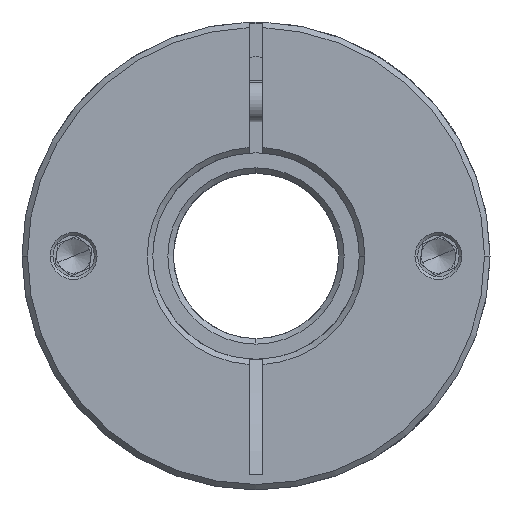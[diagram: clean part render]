
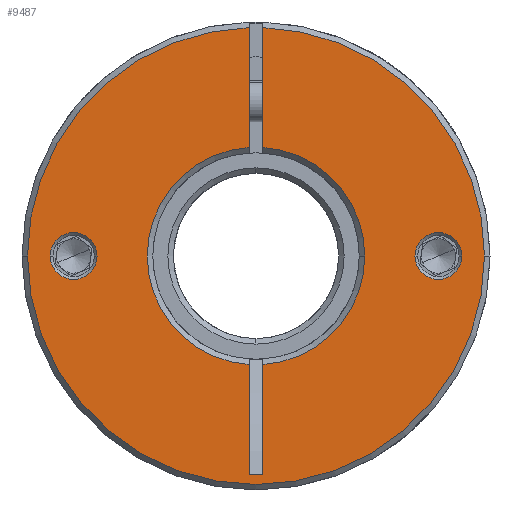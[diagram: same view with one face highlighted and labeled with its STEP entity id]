
A CAD part, front view. The second image highlights one B-rep face of the part: STEP entity #9487.
In plain terms, the highlighted planar face has unit normal (0, -1, 0).
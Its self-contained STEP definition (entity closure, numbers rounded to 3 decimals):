
#29 = EDGE_CURVE ( 'NONE', #5239, #2534, #8631, .T. ) ;
#122 = CARTESIAN_POINT ( 'NONE',  ( -2.735, -47.045, 68. ) ) ;
#135 = ORIENTED_EDGE ( 'NONE', *, *, #233, .T. ) ;
#233 = EDGE_CURVE ( 'NONE', #6963, #1270, #8201, .T. ) ;
#679 = AXIS2_PLACEMENT_3D ( 'NONE', #1423, #8633, #5821 ) ;
#842 = LINE ( 'NONE', #12953, #6326 ) ;
#847 = CARTESIAN_POINT ( 'NONE',  ( -2.735, -47.045, 68. ) ) ;
#937 = AXIS2_PLACEMENT_3D ( 'NONE', #4713, #8910, #5774 ) ;
#1107 = EDGE_CURVE ( 'NONE', #6846, #11658, #8494, .T. ) ;
#1144 = DIRECTION ( 'NONE',  ( 0., -1., 0. ) ) ;
#1270 = VERTEX_POINT ( 'NONE', #1434 ) ;
#1414 = DIRECTION ( 'NONE',  ( 0., 1., 0. ) ) ;
#1423 = CARTESIAN_POINT ( 'NONE',  ( -2.735, -47.045, 68. ) ) ;
#1434 = CARTESIAN_POINT ( 'NONE',  ( -3.735, -47.045, 83.768 ) ) ;
#1494 = CARTESIAN_POINT ( 'NONE',  ( 23.765, -47.045, 68. ) ) ;
#1496 = CARTESIAN_POINT ( 'NONE',  ( -3.735, -47.045, 36.279 ) ) ;
#1751 = CARTESIAN_POINT ( 'NONE',  ( -1.735, -47.045, 36.279 ) ) ;
#1913 = DIRECTION ( 'NONE',  ( 0., -1., 0. ) ) ;
#2199 = AXIS2_PLACEMENT_3D ( 'NONE', #5941, #6035, #7137 ) ;
#2284 = DIRECTION ( 'NONE',  ( 1., 0., 0. ) ) ;
#2534 = VERTEX_POINT ( 'NONE', #12576 ) ;
#2579 = ORIENTED_EDGE ( 'NONE', *, *, #10804, .F. ) ;
#2873 = EDGE_CURVE ( 'NONE', #2534, #12793, #11479, .T. ) ;
#3048 = VECTOR ( 'NONE', #7793, 1000. ) ;
#3285 = EDGE_LOOP ( 'NONE', ( #4196, #9244, #7271, #9202, #8887, #9224, #12603, #3463, #12957, #2579, #135 ) ) ;
#3323 = FACE_OUTER_BOUND ( 'NONE', #3285, .T. ) ;
#3342 = ORIENTED_EDGE ( 'NONE', *, *, #6259, .T. ) ;
#3374 = CARTESIAN_POINT ( 'NONE',  ( -3.735, -47.045, 68. ) ) ;
#3463 = ORIENTED_EDGE ( 'NONE', *, *, #6701, .T. ) ;
#3532 = LINE ( 'NONE', #6753, #3048 ) ;
#3602 = EDGE_CURVE ( 'NONE', #10843, #1270, #13252, .T. ) ;
#3771 = CARTESIAN_POINT ( 'NONE',  ( -3.735, -47.045, 101.185 ) ) ;
#3911 = VERTEX_POINT ( 'NONE', #12993 ) ;
#4104 = CIRCLE ( 'NONE', #9115, 15.8 ) ;
#4133 = DIRECTION ( 'NONE',  ( 1., 0., 0. ) ) ;
#4196 = ORIENTED_EDGE ( 'NONE', *, *, #3602, .F. ) ;
#4419 = EDGE_LOOP ( 'NONE', ( #11753, #3342 ) ) ;
#4603 = AXIS2_PLACEMENT_3D ( 'NONE', #11765, #1414, #6648 ) ;
#4713 = CARTESIAN_POINT ( 'NONE',  ( -2.735, -47.045, 68. ) ) ;
#4766 = VECTOR ( 'NONE', #10526, 1000. ) ;
#4858 = ORIENTED_EDGE ( 'NONE', *, *, #8524, .T. ) ;
#5030 = DIRECTION ( 'NONE',  ( 0., -1., 0. ) ) ;
#5149 = AXIS2_PLACEMENT_3D ( 'NONE', #7321, #1144, #8406 ) ;
#5161 = CARTESIAN_POINT ( 'NONE',  ( -2.735, -47.045, 68. ) ) ;
#5239 = VERTEX_POINT ( 'NONE', #5687 ) ;
#5498 = EDGE_CURVE ( 'NONE', #10843, #5239, #9794, .T. ) ;
#5540 = VERTEX_POINT ( 'NONE', #10408 ) ;
#5599 = AXIS2_PLACEMENT_3D ( 'NONE', #11442, #6394, #2284 ) ;
#5672 = VERTEX_POINT ( 'NONE', #7639 ) ;
#5681 = EDGE_CURVE ( 'NONE', #10936, #3911, #10761, .T. ) ;
#5687 = CARTESIAN_POINT ( 'NONE',  ( -35.935, -47.045, 68. ) ) ;
#5774 = DIRECTION ( 'NONE',  ( 1., 0., 0. ) ) ;
#5803 = DIRECTION ( 'NONE',  ( 0., 1., 0. ) ) ;
#5821 = DIRECTION ( 'NONE',  ( 1., 0., 0. ) ) ;
#5916 = VECTOR ( 'NONE', #9479, 1000. ) ;
#5941 = CARTESIAN_POINT ( 'NONE',  ( -29.235, -47.045, 68. ) ) ;
#6035 = DIRECTION ( 'NONE',  ( 0., 1., 0. ) ) ;
#6057 = DIRECTION ( 'NONE',  ( 1., 0., 0. ) ) ;
#6090 = CARTESIAN_POINT ( 'NONE',  ( 13.065, -47.045, 68. ) ) ;
#6259 = EDGE_CURVE ( 'NONE', #8255, #5540, #10100, .T. ) ;
#6289 = CARTESIAN_POINT ( 'NONE',  ( -32.635, -47.045, 68. ) ) ;
#6326 = VECTOR ( 'NONE', #8785, 1000. ) ;
#6394 = DIRECTION ( 'NONE',  ( 0., 1., 0. ) ) ;
#6648 = DIRECTION ( 'NONE',  ( 1., 0., 0. ) ) ;
#6701 = EDGE_CURVE ( 'NONE', #11658, #10936, #3532, .T. ) ;
#6753 = CARTESIAN_POINT ( 'NONE',  ( -1.735, -47.045, 68. ) ) ;
#6846 = VERTEX_POINT ( 'NONE', #6090 ) ;
#6888 = CARTESIAN_POINT ( 'NONE',  ( -1.735, -47.045, 52.232 ) ) ;
#6963 = VERTEX_POINT ( 'NONE', #12592 ) ;
#7035 = EDGE_CURVE ( 'NONE', #5672, #12624, #9780, .T. ) ;
#7137 = DIRECTION ( 'NONE',  ( 1., 0., 0. ) ) ;
#7271 = ORIENTED_EDGE ( 'NONE', *, *, #29, .T. ) ;
#7303 = DIRECTION ( 'NONE',  ( 0., 1., 0. ) ) ;
#7321 = CARTESIAN_POINT ( 'NONE',  ( -2.735, -47.045, 68. ) ) ;
#7347 = LINE ( 'NONE', #11510, #5916 ) ;
#7639 = CARTESIAN_POINT ( 'NONE',  ( 20.365, -47.045, 68. ) ) ;
#7793 = DIRECTION ( 'NONE',  ( 0., 0., -1. ) ) ;
#8201 = CIRCLE ( 'NONE', #679, 15.8 ) ;
#8255 = VERTEX_POINT ( 'NONE', #6289 ) ;
#8406 = DIRECTION ( 'NONE',  ( 1., 0., 0. ) ) ;
#8494 = CIRCLE ( 'NONE', #8847, 15.8 ) ;
#8524 = EDGE_CURVE ( 'NONE', #12624, #5672, #9096, .T. ) ;
#8546 = CIRCLE ( 'NONE', #4603, 3.4 ) ;
#8631 = CIRCLE ( 'NONE', #10481, 33.2 ) ;
#8633 = DIRECTION ( 'NONE',  ( 0., 1., 0. ) ) ;
#8785 = DIRECTION ( 'NONE',  ( 0., 0., -1. ) ) ;
#8847 = AXIS2_PLACEMENT_3D ( 'NONE', #122, #7303, #4133 ) ;
#8887 = ORIENTED_EDGE ( 'NONE', *, *, #8935, .T. ) ;
#8910 = DIRECTION ( 'NONE',  ( 0., -1., 0. ) ) ;
#8935 = EDGE_CURVE ( 'NONE', #12793, #10164, #7347, .T. ) ;
#9096 = CIRCLE ( 'NONE', #11423, 3.4 ) ;
#9115 = AXIS2_PLACEMENT_3D ( 'NONE', #13220, #12190, #13306 ) ;
#9202 = ORIENTED_EDGE ( 'NONE', *, *, #2873, .T. ) ;
#9224 = ORIENTED_EDGE ( 'NONE', *, *, #9946, .T. ) ;
#9244 = ORIENTED_EDGE ( 'NONE', *, *, #5498, .T. ) ;
#9386 = CARTESIAN_POINT ( 'NONE',  ( -1.735, -47.045, 83.768 ) ) ;
#9479 = DIRECTION ( 'NONE',  ( 0., 0., -1. ) ) ;
#9487 = ADVANCED_FACE ( 'NONE', ( #9724, #11828, #3323 ), #11905, .T. ) ;
#9724 = FACE_BOUND ( 'NONE', #9964, .T. ) ;
#9762 = DIRECTION ( 'NONE',  ( 1., 0., 0. ) ) ;
#9764 = DIRECTION ( 'NONE',  ( -1., 0., 0. ) ) ;
#9780 = CIRCLE ( 'NONE', #5599, 3.4 ) ;
#9794 = CIRCLE ( 'NONE', #5149, 33.2 ) ;
#9805 = CARTESIAN_POINT ( 'NONE',  ( -1.735, -47.045, 101.185 ) ) ;
#9946 = EDGE_CURVE ( 'NONE', #10164, #6846, #4104, .T. ) ;
#9964 = EDGE_LOOP ( 'NONE', ( #4858, #10628 ) ) ;
#10100 = CIRCLE ( 'NONE', #2199, 3.4 ) ;
#10164 = VERTEX_POINT ( 'NONE', #9386 ) ;
#10291 = VECTOR ( 'NONE', #9764, 1000. ) ;
#10408 = CARTESIAN_POINT ( 'NONE',  ( -25.835, -47.045, 68. ) ) ;
#10481 = AXIS2_PLACEMENT_3D ( 'NONE', #5161, #5030, #6057 ) ;
#10526 = DIRECTION ( 'NONE',  ( 0., 0., -1. ) ) ;
#10628 = ORIENTED_EDGE ( 'NONE', *, *, #7035, .T. ) ;
#10761 = LINE ( 'NONE', #1496, #10291 ) ;
#10804 = EDGE_CURVE ( 'NONE', #6963, #3911, #842, .T. ) ;
#10843 = VERTEX_POINT ( 'NONE', #3771 ) ;
#10936 = VERTEX_POINT ( 'NONE', #1751 ) ;
#11223 = DIRECTION ( 'NONE',  ( 1., 0., 0. ) ) ;
#11423 = AXIS2_PLACEMENT_3D ( 'NONE', #1494, #5803, #9762 ) ;
#11442 = CARTESIAN_POINT ( 'NONE',  ( 23.765, -47.045, 68. ) ) ;
#11479 = CIRCLE ( 'NONE', #12593, 33.2 ) ;
#11510 = CARTESIAN_POINT ( 'NONE',  ( -1.735, -47.045, 68. ) ) ;
#11565 = CARTESIAN_POINT ( 'NONE',  ( 27.165, -47.045, 68. ) ) ;
#11658 = VERTEX_POINT ( 'NONE', #6888 ) ;
#11753 = ORIENTED_EDGE ( 'NONE', *, *, #12418, .T. ) ;
#11765 = CARTESIAN_POINT ( 'NONE',  ( -29.235, -47.045, 68. ) ) ;
#11828 = FACE_BOUND ( 'NONE', #4419, .T. ) ;
#11905 = PLANE ( 'NONE',  #937 ) ;
#12190 = DIRECTION ( 'NONE',  ( 0., 1., 0. ) ) ;
#12418 = EDGE_CURVE ( 'NONE', #5540, #8255, #8546, .T. ) ;
#12576 = CARTESIAN_POINT ( 'NONE',  ( 30.465, -47.045, 68. ) ) ;
#12592 = CARTESIAN_POINT ( 'NONE',  ( -3.735, -47.045, 52.232 ) ) ;
#12593 = AXIS2_PLACEMENT_3D ( 'NONE', #847, #1913, #11223 ) ;
#12603 = ORIENTED_EDGE ( 'NONE', *, *, #1107, .T. ) ;
#12624 = VERTEX_POINT ( 'NONE', #11565 ) ;
#12793 = VERTEX_POINT ( 'NONE', #9805 ) ;
#12953 = CARTESIAN_POINT ( 'NONE',  ( -3.735, -47.045, 68. ) ) ;
#12957 = ORIENTED_EDGE ( 'NONE', *, *, #5681, .T. ) ;
#12993 = CARTESIAN_POINT ( 'NONE',  ( -3.735, -47.045, 36.279 ) ) ;
#13220 = CARTESIAN_POINT ( 'NONE',  ( -2.735, -47.045, 68. ) ) ;
#13252 = LINE ( 'NONE', #3374, #4766 ) ;
#13306 = DIRECTION ( 'NONE',  ( 1., 0., 0. ) ) ;
